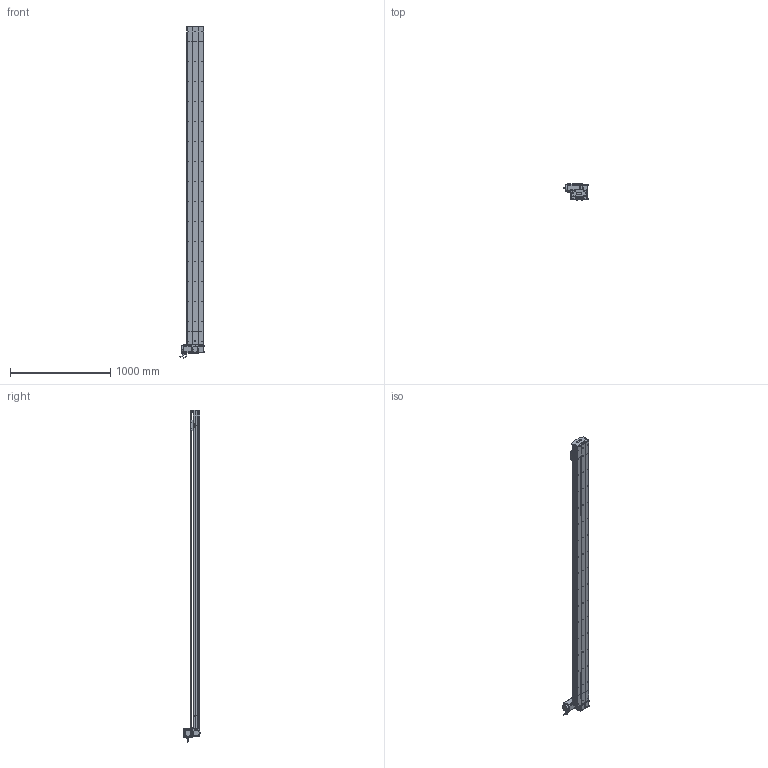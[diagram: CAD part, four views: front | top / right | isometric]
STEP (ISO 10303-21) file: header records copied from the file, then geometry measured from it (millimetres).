
FILE_DESCRIPTION (( 'STEP AP214' ), '1' );
FILE_NAME ('D17 TBN LT S2900.STEP', '2010-06-30T13:21:13', ( 'Conseil Régional Haute-Normandie' ), ( 'Conseil Régional Haute-Normandie' ), 'SwSTEP 2.0', 'SolidWorks 2010', '' );
FILE_SCHEMA (( 'AUTOMOTIVE_DESIGN' ));
Length unit declared in the file: millimetre
Products named in the file (40): couvercle D17B_Default; D17 TBN LT S2900; vis M5 L16_Default; plaque de  bout tail D17B_Default; course 2900 D17B_Default; tete d''axe poulie D17B; Couroie+ rail D17 Course 2900 ; Vis M5 L16-2_Default; Tail D17B+100_Default; poulie tail_Default; vis M5 L12_Default; corp D17B 2900_Default; Conecteur_Default; Conecteur2_Default; codeur 90BLDC125-640; corps 90BLDC125A-640; Renvoi LT_Default; couroie head D17_Default; cache arbre D17_Default; avant 90BLDC125A-640; Moteur motionking 90BLDC125A-640; poulie head_Default; vis M5 L5_Default; Head LT D17B_Default; couvercle D17B course L2900_Default; cache D17_Default; corpl head D17 _Default; vis M5 L70_Default; Arbre+rail head D17B; plaque de  bout head D17B LT_Default; couvercle D17B head_Default; Rail D17B; Plaque racord D17_Default; vis M5 L8 90°_Default; guide D17; Chariot D17 TBN; chariot D17 TBN; Couroie tail D17B_Default; vis M5 L25_Default; corp tail D17B+100_Default
Assembly tree (66 placements, depth 4):
  D17 TBN LT S2900
    course 2900 D17B_Default
      Couroie+ rail D17 Course 2900 
      couvercle D17B course L2900_Default
      corp D17B 2900_Default
    chariot D17 TBN
      Chariot D17 TBN
      guide D17  x2
    Tail D17B+100_Default
      tete d''axe poulie D17B
      vis M5 L25_Default  x2
      vis M5 L12_Default  x4
      couvercle D17B_Default
      vis M5 L8 90°_Default  x2
      corp tail D17B+100_Default
      plaque de  bout tail D17B_Default
      Couroie tail D17B_Default
      Rail D17B
      poulie tail_Default
    Head LT D17B_Default
      couvercle D17B head_Default
      Plaque racord D17_Default
      couroie head D17_Default
      vis M5 L5_Default  x4
      vis M5 L12_Default  x8
      cache D17_Default  x2
      Vis M5 L16-2_Default  x4
      Renvoi LT_Default
      poulie head_Default
      vis M5 L25_Default  x2
      vis M5 L70_Default  x4
      Arbre+rail head D17B
      vis M5 L16_Default  x2
      Moteur motionking 90BLDC125A-640
        corps 90BLDC125A-640
        avant 90BLDC125A-640
        Conecteur2_Default
        Conecteur_Default
        codeur 90BLDC125-640
      plaque de  bout head D17B LT_Default
      cache arbre D17_Default
      corpl head D17 _Default
Bounding box: 245.2 x 166.15 x 3317.95 mm (x, y, z)
Volume: 18800094.8 mm3; surface area: 5489519.3 mm2
Topology: 89 solids, 89 shells, 2655 faces, 6843 edges, 4410 vertices
Faces by surface type: plane 1537, cylinder 821, bspline 136, cone 80, torus 77, sphere 4
Entity records: 86613 total; most frequent: CARTESIAN_POINT 25633, ORIENTED_EDGE 10858, DIRECTION 10238, EDGE_CURVE 5429, VERTEX_POINT 3554, LINE 3540, VECTOR 3540, AXIS2_PLACEMENT_3D 3349
